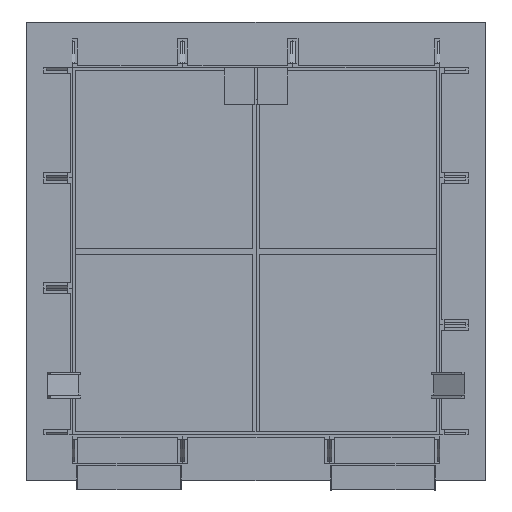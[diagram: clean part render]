
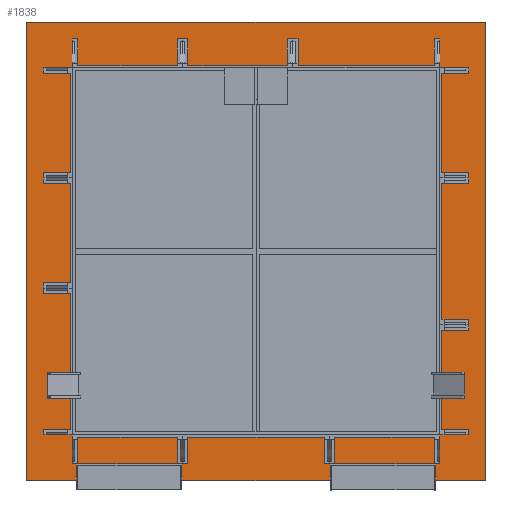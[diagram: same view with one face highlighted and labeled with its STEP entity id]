
A CAD part, top view. The second image highlights one B-rep face of the part: STEP entity #1838.
In plain terms, the highlighted planar face has unit normal (0, 0, 1) as drawn and (0, 1, 0) by its records, which use the part's own axes.
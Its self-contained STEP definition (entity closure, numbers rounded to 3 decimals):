
#1520 = EDGE_CURVE('',#1521,#1523,#1525,.T.);
#1521 = VERTEX_POINT('',#1522);
#1522 = CARTESIAN_POINT('',(762.,25.4,-762.));
#1523 = VERTEX_POINT('',#1524);
#1524 = CARTESIAN_POINT('',(762.,25.4,-6858.));
#1525 = SURFACE_CURVE('',#1526,(#1530,#1542),.PCURVE_S1.);
#1526 = LINE('',#1527,#1528);
#1527 = CARTESIAN_POINT('',(762.,25.4,-5334.));
#1528 = VECTOR('',#1529,1.);
#1529 = DIRECTION('',(0.,0.,-1.));
#1530 = PCURVE('',#1531,#1536);
#1531 = PLANE('',#1532);
#1532 = AXIS2_PLACEMENT_3D('',#1533,#1534,#1535);
#1533 = CARTESIAN_POINT('',(762.,25.4,-6858.));
#1534 = DIRECTION('',(-1.,0.,0.));
#1535 = DIRECTION('',(0.,0.,1.));
#1536 = DEFINITIONAL_REPRESENTATION('',(#1537),#1541);
#1537 = LINE('',#1538,#1539);
#1538 = CARTESIAN_POINT('',(1524.,0.));
#1539 = VECTOR('',#1540,1.);
#1540 = DIRECTION('',(-1.,0.));
#1541 = ( GEOMETRIC_REPRESENTATION_CONTEXT(2) 
PARAMETRIC_REPRESENTATION_CONTEXT() REPRESENTATION_CONTEXT('2D SPACE',''
  ) );
#1542 = PCURVE('',#1543,#1548);
#1543 = PLANE('',#1544);
#1544 = AXIS2_PLACEMENT_3D('',#1545,#1546,#1547);
#1545 = CARTESIAN_POINT('',(3810.,25.4,-3810.));
#1546 = DIRECTION('',(0.,1.,0.));
#1547 = DIRECTION('',(0.,0.,1.));
#1548 = DEFINITIONAL_REPRESENTATION('',(#1549),#1553);
#1549 = LINE('',#1550,#1551);
#1550 = CARTESIAN_POINT('',(-1524.,-3048.));
#1551 = VECTOR('',#1552,1.);
#1552 = DIRECTION('',(-1.,0.));
#1553 = ( GEOMETRIC_REPRESENTATION_CONTEXT(2) 
PARAMETRIC_REPRESENTATION_CONTEXT() REPRESENTATION_CONTEXT('2D SPACE',''
  ) );
#1571 = PLANE('',#1572);
#1572 = AXIS2_PLACEMENT_3D('',#1573,#1574,#1575);
#1573 = CARTESIAN_POINT('',(762.,25.4,-762.));
#1574 = DIRECTION('',(0.,0.,1.));
#1575 = DIRECTION('',(1.,0.,0.));
#1620 = PLANE('',#1621);
#1621 = AXIS2_PLACEMENT_3D('',#1622,#1623,#1624);
#1622 = CARTESIAN_POINT('',(6858.,25.4,-6858.));
#1623 = DIRECTION('',(0.,0.,-1.));
#1624 = DIRECTION('',(-1.,0.,0.));
#1635 = EDGE_CURVE('',#1523,#1636,#1638,.T.);
#1636 = VERTEX_POINT('',#1637);
#1637 = CARTESIAN_POINT('',(6858.,25.4,-6858.));
#1638 = SURFACE_CURVE('',#1639,(#1643,#1650),.PCURVE_S1.);
#1639 = LINE('',#1640,#1641);
#1640 = CARTESIAN_POINT('',(5334.,25.4,-6858.));
#1641 = VECTOR('',#1642,1.);
#1642 = DIRECTION('',(1.,0.,0.));
#1643 = PCURVE('',#1620,#1644);
#1644 = DEFINITIONAL_REPRESENTATION('',(#1645),#1649);
#1645 = LINE('',#1646,#1647);
#1646 = CARTESIAN_POINT('',(1524.,0.));
#1647 = VECTOR('',#1648,1.);
#1648 = DIRECTION('',(-1.,0.));
#1649 = ( GEOMETRIC_REPRESENTATION_CONTEXT(2) 
PARAMETRIC_REPRESENTATION_CONTEXT() REPRESENTATION_CONTEXT('2D SPACE',''
  ) );
#1650 = PCURVE('',#1543,#1651);
#1651 = DEFINITIONAL_REPRESENTATION('',(#1652),#1656);
#1652 = LINE('',#1653,#1654);
#1653 = CARTESIAN_POINT('',(-3048.,1524.));
#1654 = VECTOR('',#1655,1.);
#1655 = DIRECTION('',(0.,1.));
#1656 = ( GEOMETRIC_REPRESENTATION_CONTEXT(2) 
PARAMETRIC_REPRESENTATION_CONTEXT() REPRESENTATION_CONTEXT('2D SPACE',''
  ) );
#1696 = PLANE('',#1697);
#1697 = AXIS2_PLACEMENT_3D('',#1698,#1699,#1700);
#1698 = CARTESIAN_POINT('',(6858.,25.4,-762.));
#1699 = DIRECTION('',(1.,0.,0.));
#1700 = DIRECTION('',(0.,0.,-1.));
#1711 = EDGE_CURVE('',#1636,#1712,#1714,.T.);
#1712 = VERTEX_POINT('',#1713);
#1713 = CARTESIAN_POINT('',(6858.,25.4,-762.));
#1714 = SURFACE_CURVE('',#1715,(#1719,#1726),.PCURVE_S1.);
#1715 = LINE('',#1716,#1717);
#1716 = CARTESIAN_POINT('',(6858.,25.4,-2286.));
#1717 = VECTOR('',#1718,1.);
#1718 = DIRECTION('',(0.,0.,1.));
#1719 = PCURVE('',#1696,#1720);
#1720 = DEFINITIONAL_REPRESENTATION('',(#1721),#1725);
#1721 = LINE('',#1722,#1723);
#1722 = CARTESIAN_POINT('',(1524.,0.));
#1723 = VECTOR('',#1724,1.);
#1724 = DIRECTION('',(-1.,0.));
#1725 = ( GEOMETRIC_REPRESENTATION_CONTEXT(2) 
PARAMETRIC_REPRESENTATION_CONTEXT() REPRESENTATION_CONTEXT('2D SPACE',''
  ) );
#1726 = PCURVE('',#1543,#1727);
#1727 = DEFINITIONAL_REPRESENTATION('',(#1728),#1732);
#1728 = LINE('',#1729,#1730);
#1729 = CARTESIAN_POINT('',(1524.,3048.));
#1730 = VECTOR('',#1731,1.);
#1731 = DIRECTION('',(1.,0.));
#1732 = ( GEOMETRIC_REPRESENTATION_CONTEXT(2) 
PARAMETRIC_REPRESENTATION_CONTEXT() REPRESENTATION_CONTEXT('2D SPACE',''
  ) );
#1782 = EDGE_CURVE('',#1712,#1521,#1783,.T.);
#1783 = SURFACE_CURVE('',#1784,(#1788,#1795),.PCURVE_S1.);
#1784 = LINE('',#1785,#1786);
#1785 = CARTESIAN_POINT('',(2286.,25.4,-762.));
#1786 = VECTOR('',#1787,1.);
#1787 = DIRECTION('',(-1.,0.,0.));
#1788 = PCURVE('',#1571,#1789);
#1789 = DEFINITIONAL_REPRESENTATION('',(#1790),#1794);
#1790 = LINE('',#1791,#1792);
#1791 = CARTESIAN_POINT('',(1524.,0.));
#1792 = VECTOR('',#1793,1.);
#1793 = DIRECTION('',(-1.,0.));
#1794 = ( GEOMETRIC_REPRESENTATION_CONTEXT(2) 
PARAMETRIC_REPRESENTATION_CONTEXT() REPRESENTATION_CONTEXT('2D SPACE',''
  ) );
#1795 = PCURVE('',#1543,#1796);
#1796 = DEFINITIONAL_REPRESENTATION('',(#1797),#1801);
#1797 = LINE('',#1798,#1799);
#1798 = CARTESIAN_POINT('',(3048.,-1524.));
#1799 = VECTOR('',#1800,1.);
#1800 = DIRECTION('',(0.,-1.));
#1801 = ( GEOMETRIC_REPRESENTATION_CONTEXT(2) 
PARAMETRIC_REPRESENTATION_CONTEXT() REPRESENTATION_CONTEXT('2D SPACE',''
  ) );
#1838 = ADVANCED_FACE('',(#1839,#1953),#1543,.T.);
#1839 = FACE_BOUND('',#1840,.T.);
#1840 = EDGE_LOOP('',(#1841,#1871,#1899,#1927));
#1841 = ORIENTED_EDGE('',*,*,#1842,.T.);
#1842 = EDGE_CURVE('',#1843,#1845,#1847,.T.);
#1843 = VERTEX_POINT('',#1844);
#1844 = CARTESIAN_POINT('',(7620.,25.4,0.));
#1845 = VERTEX_POINT('',#1846);
#1846 = CARTESIAN_POINT('',(7620.,25.4,-7620.));
#1847 = SURFACE_CURVE('',#1848,(#1852,#1859),.PCURVE_S1.);
#1848 = LINE('',#1849,#1850);
#1849 = CARTESIAN_POINT('',(7620.,25.4,0.));
#1850 = VECTOR('',#1851,1.);
#1851 = DIRECTION('',(0.,0.,-1.));
#1852 = PCURVE('',#1543,#1853);
#1853 = DEFINITIONAL_REPRESENTATION('',(#1854),#1858);
#1854 = LINE('',#1855,#1856);
#1855 = CARTESIAN_POINT('',(3810.,3810.));
#1856 = VECTOR('',#1857,1.);
#1857 = DIRECTION('',(-1.,0.));
#1858 = ( GEOMETRIC_REPRESENTATION_CONTEXT(2) 
PARAMETRIC_REPRESENTATION_CONTEXT() REPRESENTATION_CONTEXT('2D SPACE',''
  ) );
#1859 = PCURVE('',#1860,#1865);
#1860 = PLANE('',#1861);
#1861 = AXIS2_PLACEMENT_3D('',#1862,#1863,#1864);
#1862 = CARTESIAN_POINT('',(7620.,0.,0.));
#1863 = DIRECTION('',(1.,0.,0.));
#1864 = DIRECTION('',(0.,0.,-1.));
#1865 = DEFINITIONAL_REPRESENTATION('',(#1866),#1870);
#1866 = LINE('',#1867,#1868);
#1867 = CARTESIAN_POINT('',(0.,25.4));
#1868 = VECTOR('',#1869,1.);
#1869 = DIRECTION('',(1.,0.));
#1870 = ( GEOMETRIC_REPRESENTATION_CONTEXT(2) 
PARAMETRIC_REPRESENTATION_CONTEXT() REPRESENTATION_CONTEXT('2D SPACE',''
  ) );
#1871 = ORIENTED_EDGE('',*,*,#1872,.T.);
#1872 = EDGE_CURVE('',#1845,#1873,#1875,.T.);
#1873 = VERTEX_POINT('',#1874);
#1874 = CARTESIAN_POINT('',(0.,25.4,-7620.));
#1875 = SURFACE_CURVE('',#1876,(#1880,#1887),.PCURVE_S1.);
#1876 = LINE('',#1877,#1878);
#1877 = CARTESIAN_POINT('',(7620.,25.4,-7620.));
#1878 = VECTOR('',#1879,1.);
#1879 = DIRECTION('',(-1.,0.,0.));
#1880 = PCURVE('',#1543,#1881);
#1881 = DEFINITIONAL_REPRESENTATION('',(#1882),#1886);
#1882 = LINE('',#1883,#1884);
#1883 = CARTESIAN_POINT('',(-3810.,3810.));
#1884 = VECTOR('',#1885,1.);
#1885 = DIRECTION('',(0.,-1.));
#1886 = ( GEOMETRIC_REPRESENTATION_CONTEXT(2) 
PARAMETRIC_REPRESENTATION_CONTEXT() REPRESENTATION_CONTEXT('2D SPACE',''
  ) );
#1887 = PCURVE('',#1888,#1893);
#1888 = PLANE('',#1889);
#1889 = AXIS2_PLACEMENT_3D('',#1890,#1891,#1892);
#1890 = CARTESIAN_POINT('',(7620.,0.,-7620.));
#1891 = DIRECTION('',(0.,0.,-1.));
#1892 = DIRECTION('',(-1.,0.,0.));
#1893 = DEFINITIONAL_REPRESENTATION('',(#1894),#1898);
#1894 = LINE('',#1895,#1896);
#1895 = CARTESIAN_POINT('',(0.,25.4));
#1896 = VECTOR('',#1897,1.);
#1897 = DIRECTION('',(1.,0.));
#1898 = ( GEOMETRIC_REPRESENTATION_CONTEXT(2) 
PARAMETRIC_REPRESENTATION_CONTEXT() REPRESENTATION_CONTEXT('2D SPACE',''
  ) );
#1899 = ORIENTED_EDGE('',*,*,#1900,.T.);
#1900 = EDGE_CURVE('',#1873,#1901,#1903,.T.);
#1901 = VERTEX_POINT('',#1902);
#1902 = CARTESIAN_POINT('',(0.,25.4,0.));
#1903 = SURFACE_CURVE('',#1904,(#1908,#1915),.PCURVE_S1.);
#1904 = LINE('',#1905,#1906);
#1905 = CARTESIAN_POINT('',(0.,25.4,-7620.));
#1906 = VECTOR('',#1907,1.);
#1907 = DIRECTION('',(0.,0.,1.));
#1908 = PCURVE('',#1543,#1909);
#1909 = DEFINITIONAL_REPRESENTATION('',(#1910),#1914);
#1910 = LINE('',#1911,#1912);
#1911 = CARTESIAN_POINT('',(-3810.,-3810.));
#1912 = VECTOR('',#1913,1.);
#1913 = DIRECTION('',(1.,0.));
#1914 = ( GEOMETRIC_REPRESENTATION_CONTEXT(2) 
PARAMETRIC_REPRESENTATION_CONTEXT() REPRESENTATION_CONTEXT('2D SPACE',''
  ) );
#1915 = PCURVE('',#1916,#1921);
#1916 = PLANE('',#1917);
#1917 = AXIS2_PLACEMENT_3D('',#1918,#1919,#1920);
#1918 = CARTESIAN_POINT('',(0.,0.,-7620.));
#1919 = DIRECTION('',(-1.,0.,0.));
#1920 = DIRECTION('',(0.,0.,1.));
#1921 = DEFINITIONAL_REPRESENTATION('',(#1922),#1926);
#1922 = LINE('',#1923,#1924);
#1923 = CARTESIAN_POINT('',(0.,25.4));
#1924 = VECTOR('',#1925,1.);
#1925 = DIRECTION('',(1.,0.));
#1926 = ( GEOMETRIC_REPRESENTATION_CONTEXT(2) 
PARAMETRIC_REPRESENTATION_CONTEXT() REPRESENTATION_CONTEXT('2D SPACE',''
  ) );
#1927 = ORIENTED_EDGE('',*,*,#1928,.T.);
#1928 = EDGE_CURVE('',#1901,#1843,#1929,.T.);
#1929 = SURFACE_CURVE('',#1930,(#1934,#1941),.PCURVE_S1.);
#1930 = LINE('',#1931,#1932);
#1931 = CARTESIAN_POINT('',(0.,25.4,0.));
#1932 = VECTOR('',#1933,1.);
#1933 = DIRECTION('',(1.,0.,0.));
#1934 = PCURVE('',#1543,#1935);
#1935 = DEFINITIONAL_REPRESENTATION('',(#1936),#1940);
#1936 = LINE('',#1937,#1938);
#1937 = CARTESIAN_POINT('',(3810.,-3810.));
#1938 = VECTOR('',#1939,1.);
#1939 = DIRECTION('',(0.,1.));
#1940 = ( GEOMETRIC_REPRESENTATION_CONTEXT(2) 
PARAMETRIC_REPRESENTATION_CONTEXT() REPRESENTATION_CONTEXT('2D SPACE',''
  ) );
#1941 = PCURVE('',#1942,#1947);
#1942 = PLANE('',#1943);
#1943 = AXIS2_PLACEMENT_3D('',#1944,#1945,#1946);
#1944 = CARTESIAN_POINT('',(0.,0.,0.));
#1945 = DIRECTION('',(0.,0.,1.));
#1946 = DIRECTION('',(1.,0.,0.));
#1947 = DEFINITIONAL_REPRESENTATION('',(#1948),#1952);
#1948 = LINE('',#1949,#1950);
#1949 = CARTESIAN_POINT('',(0.,25.4));
#1950 = VECTOR('',#1951,1.);
#1951 = DIRECTION('',(1.,0.));
#1952 = ( GEOMETRIC_REPRESENTATION_CONTEXT(2) 
PARAMETRIC_REPRESENTATION_CONTEXT() REPRESENTATION_CONTEXT('2D SPACE',''
  ) );
#1953 = FACE_BOUND('',#1954,.T.);
#1954 = EDGE_LOOP('',(#1955,#1956,#1957,#1958));
#1955 = ORIENTED_EDGE('',*,*,#1520,.T.);
#1956 = ORIENTED_EDGE('',*,*,#1635,.T.);
#1957 = ORIENTED_EDGE('',*,*,#1711,.T.);
#1958 = ORIENTED_EDGE('',*,*,#1782,.T.);
